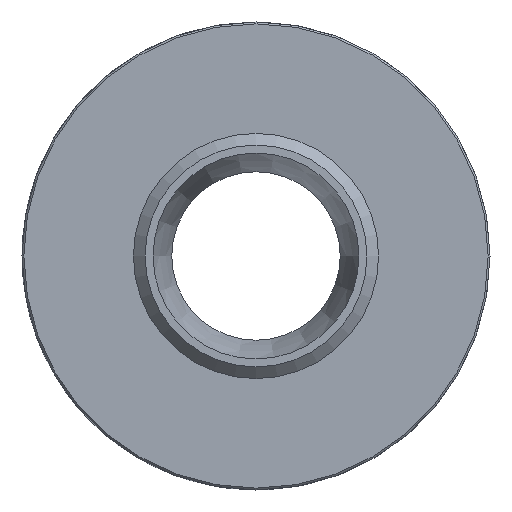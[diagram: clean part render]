
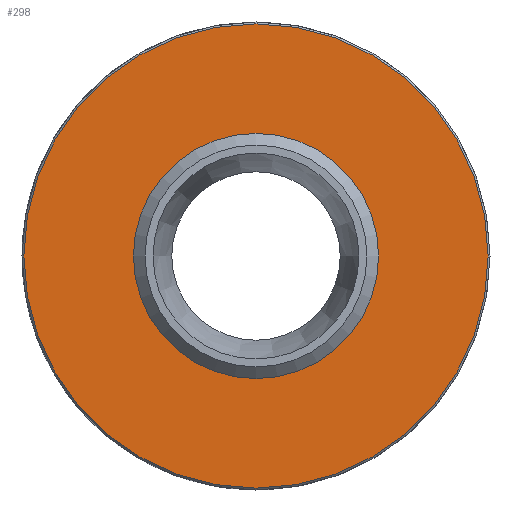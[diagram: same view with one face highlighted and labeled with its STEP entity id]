
A CAD part, front view. The second image highlights one B-rep face of the part: STEP entity #298.
In plain terms, the highlighted planar face has unit normal (0, -1, 0).
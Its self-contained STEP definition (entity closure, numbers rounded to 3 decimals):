
#15=FACE_BOUND('',#51,.T.);
#19=PLANE('',#347);
#33=FACE_OUTER_BOUND('',#50,.T.);
#50=EDGE_LOOP('',(#218));
#51=EDGE_LOOP('',(#219,#220));
#91=CIRCLE('',#334,12.);
#92=CIRCLE('',#335,12.);
#100=CIRCLE('',#348,24.8);
#120=VERTEX_POINT('',#489);
#121=VERTEX_POINT('',#490);
#129=VERTEX_POINT('',#516);
#150=EDGE_CURVE('',#120,#121,#91,.T.);
#151=EDGE_CURVE('',#121,#120,#92,.T.);
#163=EDGE_CURVE('',#129,#129,#100,.T.);
#218=ORIENTED_EDGE('',*,*,#163,.F.);
#219=ORIENTED_EDGE('',*,*,#150,.T.);
#220=ORIENTED_EDGE('',*,*,#151,.T.);
#298=ADVANCED_FACE('',(#33,#15),#19,.T.);
#334=AXIS2_PLACEMENT_3D('',#491,#388,#389);
#335=AXIS2_PLACEMENT_3D('',#492,#390,#391);
#347=AXIS2_PLACEMENT_3D('',#515,#418,#419);
#348=AXIS2_PLACEMENT_3D('',#517,#420,#421);
#388=DIRECTION('center_axis',(0.,1.,0.));
#389=DIRECTION('ref_axis',(1.,0.,0.));
#390=DIRECTION('center_axis',(0.,1.,0.));
#391=DIRECTION('ref_axis',(1.,0.,0.));
#418=DIRECTION('center_axis',(0.,-1.,0.));
#419=DIRECTION('ref_axis',(0.,0.,-1.));
#420=DIRECTION('center_axis',(0.,1.,0.));
#421=DIRECTION('ref_axis',(1.,0.,0.));
#489=CARTESIAN_POINT('',(-12.,12.,0.));
#490=CARTESIAN_POINT('',(12.,12.,0.));
#491=CARTESIAN_POINT('Origin',(0.,12.,0.));
#492=CARTESIAN_POINT('Origin',(0.,12.,0.));
#515=CARTESIAN_POINT('Origin',(-25.,12.,0.));
#516=CARTESIAN_POINT('',(-24.8,12.,0.));
#517=CARTESIAN_POINT('Origin',(0.,12.,0.));
